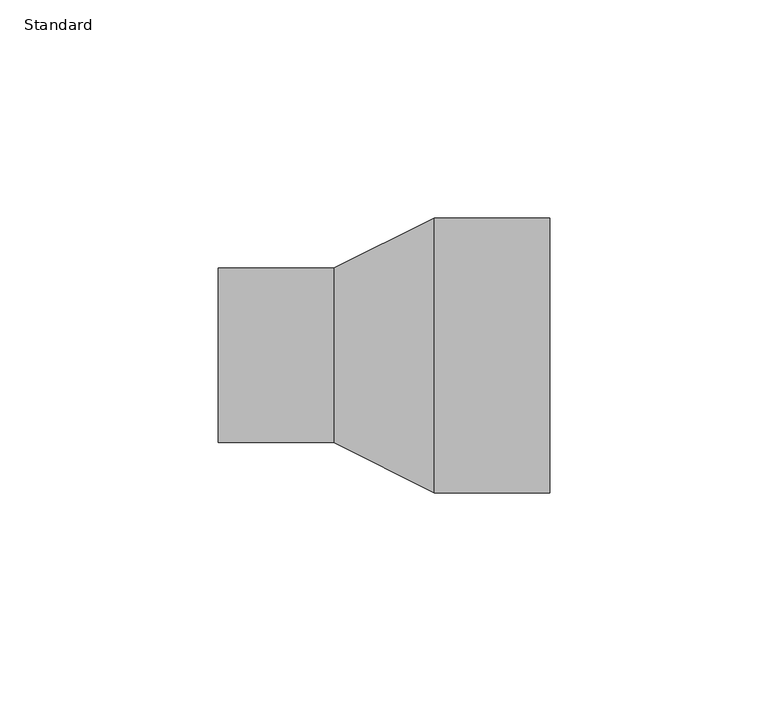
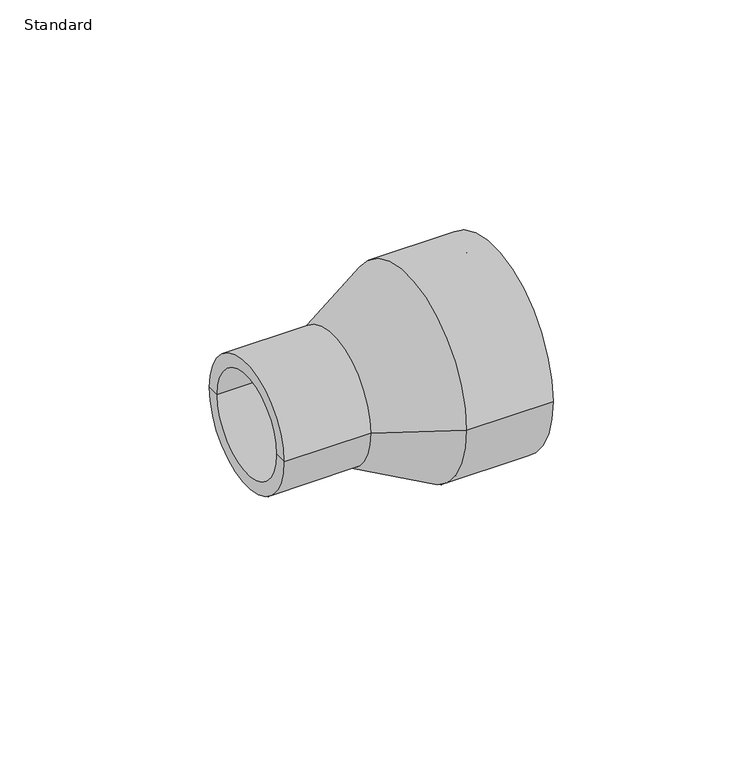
"""IFC4 building model written with IfcOpenShell, lengths in millimetres: pipe fitting geometry, Durapipe_PipeFitting_PVC_Reducers : Standard."""

from ifc_helpers import new_model, si_unit, frame, origin, place, context, project, spatial, polyline, circle_curve, source, transform, mapped, element, save
from ifc_brep_helpers import plane_surface, cylinder_surface, revolved_surface, advanced_brep


def standard_206df129(model_context):
    return source(origin(), model_context, "Body", "AdvancedBrep", [
        advanced_brep(
        [(-38.0, -20.0, 0.0), (-38.0, 20.0, 0.0), (-11.5, 20.0, 0.0), (-11.5, -20.0, 0.0), (-38.0, -16.0, 0.0), (-38.0, 16.0, 0.0), (38.0, -31.5, 0.0), (38.0, 31.5, 0.0), (38.0, 25.0, 0.0), (38.0, -25.0, 0.0), (11.5, -31.5, 0.0), (11.5, 31.5, 0.0), (-11.5, -16.0, 0.0), (-11.5, 16.0, 0.0), (-11.5, 0.0, 0.0), (11.5, -25.0, 0.0), (11.5, 25.0, 0.0), (11.5, 0.0, 0.0)],
        [
            (0, 1, circle_curve(frame((-38.0, 0.0, 0.0), z_axis=(1.0, 0.0, 0.0), x_axis=(0.0, 1.0, 0.0)), 20.0)),
            (1, 2),
            (2, 3, circle_curve(frame((-11.5, 0.0, 0.0), z_axis=(-1.0, 0.0, 0.0), x_axis=(0.0, 1.0, 0.0)), 20.0)),
            (3, 0),
            (1, 0, circle_curve(frame((-38.0, 0.0, 0.0), z_axis=(1.0, 0.0, 0.0), x_axis=(0.0, 1.0, 0.0)), 20.0)),
            (3, 2, circle_curve(frame((-11.5, 0.0, 0.0), z_axis=(-1.0, 0.0, 0.0), x_axis=(0.0, 1.0, 0.0)), 20.0)),
            (4, 5, circle_curve(frame((-38.0, 0.0, 0.0), z_axis=(1.0, 0.0, 0.0), x_axis=(0.0, 1.0, 0.0)), 16.0)),
            (5, 1),
            (0, 4),
            (5, 4, circle_curve(frame((-38.0, 0.0, 0.0), z_axis=(1.0, 0.0, 0.0), x_axis=(0.0, 1.0, 0.0)), 16.0)),
            (6, 7, circle_curve(frame((38.0, 0.0, 0.0), z_axis=(1.0, 0.0, 0.0), x_axis=(0.0, 1.0, 0.0)), 31.5)),
            (7, 8),
            (8, 9, circle_curve(frame((38.0, 0.0, 0.0), z_axis=(-1.0, 0.0, 0.0), x_axis=(0.0, 1.0, 0.0)), 25.0)),
            (9, 6),
            (7, 6, circle_curve(frame((38.0, 0.0, 0.0), z_axis=(1.0, 0.0, 0.0), x_axis=(0.0, 1.0, 0.0)), 31.5)),
            (9, 8, circle_curve(frame((38.0, 0.0, 0.0), z_axis=(-1.0, 0.0, 0.0), x_axis=(0.0, 1.0, 0.0)), 25.0)),
            (10, 11, circle_curve(frame((11.5, 0.0, 0.0), z_axis=(1.0, 0.0, 0.0), x_axis=(0.0, 1.0, 0.0)), 31.5)),
            (11, 7),
            (6, 10),
            (11, 10, circle_curve(frame((11.5, 0.0, 0.0), z_axis=(1.0, 0.0, 0.0), x_axis=(0.0, 1.0, 0.0)), 31.5)),
            (2, 11),
            (10, 3),
            (12, 13, circle_curve(frame((-11.5, 0.0, 0.0), z_axis=(1.0, 0.0, 0.0), x_axis=(0.0, 1.0, 0.0)), 16.0)),
            (13, 5),
            (4, 12),
            (13, 12, circle_curve(frame((-11.5, 0.0, 0.0), z_axis=(1.0, 0.0, 0.0), x_axis=(0.0, 1.0, 0.0)), 16.0)),
            (14, 13),
            (12, 14),
            (15, 16, circle_curve(frame((11.5, 0.0, 0.0), z_axis=(1.0, 0.0, 0.0), x_axis=(0.0, 1.0, 0.0)), 25.0)),
            (16, 17),
            (17, 15),
            (16, 15, circle_curve(frame((11.5, 0.0, 0.0), z_axis=(1.0, 0.0, 0.0), x_axis=(0.0, 1.0, 0.0)), 25.0)),
            (8, 16),
            (15, 9),
        ],
        [
            cylinder_surface(frame((-38.0, 0.0, 0.0), z_axis=(-1.0, 0.0, 0.0), x_axis=(0.0, 1.0, 0.0)), 20.0),
            plane_surface(frame((-38.0, 0.0, 0.0), z_axis=(-1.0, 0.0, 0.0), x_axis=(0.0, 1.0, 0.0))),
            plane_surface(frame((38.0, 0.0, 0.0), z_axis=(1.0, 0.0, 0.0), x_axis=(0.0, 1.0, 0.0))),
            cylinder_surface(frame((-38.0, 0.0, 0.0), z_axis=(-1.0, 0.0, 0.0), x_axis=(0.0, 1.0, 0.0)), 31.5),
            revolved_surface(polyline([(11.5, 31.5, 0.0), (-11.5, 20.0, 0.0)]), (-38.0, 0.0, 0.0), (-1.0, 0.0, 0.0)),
            revolved_surface(polyline([(-38.0, 16.0, 0.0), (-11.5, 16.0, 0.0)]), (-38.0, 0.0, 0.0), (-1.0, 0.0, 0.0)),
            plane_surface(frame((-11.5, 0.0, 0.0), z_axis=(-1.0, 0.0, 0.0), x_axis=(0.0, 1.0, 0.0))),
            plane_surface(frame((11.5, 0.0, 0.0), z_axis=(1.0, 0.0, 0.0), x_axis=(0.0, 1.0, 0.0))),
            revolved_surface(polyline([(11.5, 25.0, 0.0), (38.0, 25.0, 0.0)]), (-38.0, 0.0, 0.0), (-1.0, 0.0, 0.0)),
        ],
        [
            (0, [[1, 2, 3, 4]]),
            (0, [[5, -4, 6, -2]]),
            (1, [[7, 8, -1, 9]]),
            (1, [[10, -9, -5, -8]]),
            (2, [[11, 12, 13, 14]]),
            (2, [[15, -14, 16, -12]]),
            (3, [[17, 18, -11, 19]]),
            (3, [[20, -19, -15, -18]]),
            (4, [[-3, 21, -17, 22]]),
            (4, [[-6, -22, -20, -21]]),
            (5, [[23, 24, -7, 25]]),
            (5, [[26, -25, -10, -24]]),
            (6, [[27, -23, 28]]),
            (6, [[-28, -26, -27]]),
            (7, [[29, 30, 31]]),
            (7, [[32, -31, -30]]),
            (8, [[-13, 33, -29, 34]]),
            (8, [[-16, -34, -32, -33]]),
        ],
    ),
    ])


if __name__ == "__main__":
    model = new_model("IFC4")
    model_context = context("Model", 3, world=origin())
    ifc_project = project(units=[si_unit("LENGTHUNIT", "METRE", prefix="MILLI")], contexts=[model_context])
    site = spatial("IfcSite", under=ifc_project)
    building = spatial("IfcBuilding", under=site)
    placement = place(None, origin())
    standard_shape = standard_206df129(model_context)
    element("IfcPipeFitting", 1, ObjectType="Durapipe_PipeFitting_PVC_Reducers : Standard", at=placement, inside=building, context=model_context, shape_type="MappedRepresentation", body=[
        mapped(standard_shape, transform((0.0, 0.0, 0.0), x_axis=(1.0, 0.0, 0.0), y_axis=(0.0, 1.0, 0.0), z_axis=(0.0, 0.0, 1.0))),
    ])
    save(model, "model.ifc")
